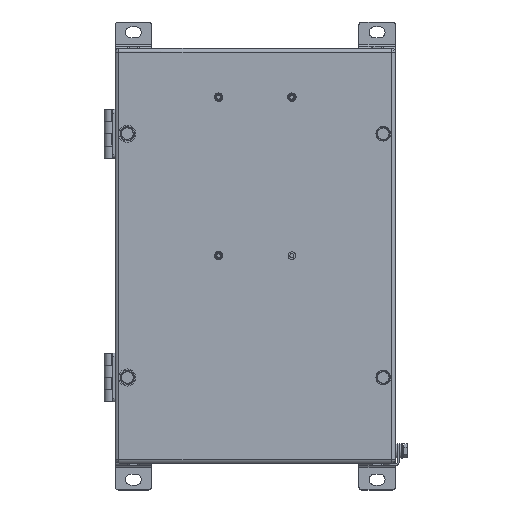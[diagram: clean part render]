
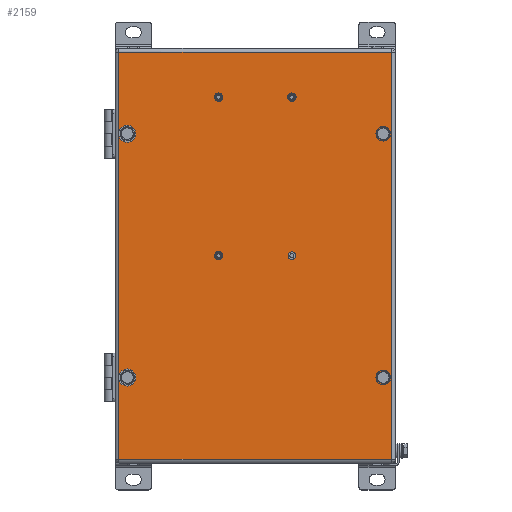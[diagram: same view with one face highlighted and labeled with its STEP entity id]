
A CAD part, top view. The second image highlights one B-rep face of the part: STEP entity #2159.
In plain terms, the highlighted planar face has unit normal (0, 0, 1).
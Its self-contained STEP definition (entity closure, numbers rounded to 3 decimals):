
#1589=CARTESIAN_POINT('',(112.,-167.,150.));
#1590=VERTEX_POINT('',#1589);
#1656=CARTESIAN_POINT('',(112.0,167.,150.));
#1657=VERTEX_POINT('',#1656);
#1723=CARTESIAN_POINT('',(-112.,-167.,150.));
#1724=VERTEX_POINT('',#1723);
#1796=CARTESIAN_POINT('',(112.,-167.,150.));
#1797=DIRECTION('',(-1.0,0.0,0.0));
#1798=VECTOR('',#1797,224.);
#1799=LINE('',#1796,#1798);
#1800=EDGE_CURVE('',#1590,#1724,#1799,.T.);
#1812=CARTESIAN_POINT('',(-112.,167.,150.));
#1813=VERTEX_POINT('',#1812);
#1885=CARTESIAN_POINT('',(-112.,-167.0,150.));
#1886=DIRECTION('',(0.0,1.0,0.0));
#1887=VECTOR('',#1886,334.0);
#1888=LINE('',#1885,#1887);
#1889=EDGE_CURVE('',#1724,#1813,#1888,.T.);
#1907=CARTESIAN_POINT('',(-112.,167.,150.));
#1908=DIRECTION('',(1.0,0.0,0.0));
#1909=VECTOR('',#1908,224.);
#1910=LINE('',#1907,#1909);
#1911=EDGE_CURVE('',#1813,#1657,#1910,.T.);
#1929=CARTESIAN_POINT('',(112.,167.0,150.));
#1930=DIRECTION('',(0.0,-1.0,0.0));
#1931=VECTOR('',#1930,334.0);
#1932=LINE('',#1929,#1931);
#1933=EDGE_CURVE('',#1657,#1590,#1932,.T.);
#2060=CARTESIAN_POINT('',(0.,0.,150.));
#2061=DIRECTION('',(0.0,0.0,1.0));
#2062=DIRECTION('',(1.0,0.0,0.0));
#2063=AXIS2_PLACEMENT_3D('',#2060,#2061,#2062);
#2064=PLANE('',#2063);
#2065=ORIENTED_EDGE('',*,*,#1800,.F.);
#2066=ORIENTED_EDGE('',*,*,#1933,.F.);
#2067=ORIENTED_EDGE('',*,*,#1911,.F.);
#2068=ORIENTED_EDGE('',*,*,#1889,.F.);
#2069=EDGE_LOOP('',(#2065,#2066,#2067,#2068));
#2070=FACE_OUTER_BOUND('',#2069,.T.);
#2071=CARTESIAN_POINT('',(-101.25,100.,150.));
#2072=VERTEX_POINT('',#2071);
#2073=CARTESIAN_POINT('',(-105.,100.,150.));
#2074=DIRECTION('',(0.0,0.0,-1.0));
#2075=DIRECTION('',(-1.0,0.0,0.0));
#2076=AXIS2_PLACEMENT_3D('',#2073,#2074,#2075);
#2077=CIRCLE('',#2076,3.75);
#2078=EDGE_CURVE('',#2072,#2072,#2077,.T.);
#2079=ORIENTED_EDGE('',*,*,#2078,.T.);
#2080=EDGE_LOOP('',(#2079));
#2081=FACE_BOUND('',#2080,.T.);
#2082=CARTESIAN_POINT('',(108.75,100.0,150.));
#2083=VERTEX_POINT('',#2082);
#2084=CARTESIAN_POINT('',(105.,100.0,150.));
#2085=DIRECTION('',(0.0,0.0,-1.0));
#2086=DIRECTION('',(-1.0,0.0,0.0));
#2087=AXIS2_PLACEMENT_3D('',#2084,#2085,#2086);
#2088=CIRCLE('',#2087,3.75);
#2089=EDGE_CURVE('',#2083,#2083,#2088,.T.);
#2090=ORIENTED_EDGE('',*,*,#2089,.T.);
#2091=EDGE_LOOP('',(#2090));
#2092=FACE_BOUND('',#2091,.T.);
#2093=CARTESIAN_POINT('',(-101.25,-100.,150.));
#2094=VERTEX_POINT('',#2093);
#2095=CARTESIAN_POINT('',(-105.,-100.,150.));
#2096=DIRECTION('',(0.0,0.0,-1.0));
#2097=DIRECTION('',(-1.0,0.0,0.0));
#2098=AXIS2_PLACEMENT_3D('',#2095,#2096,#2097);
#2099=CIRCLE('',#2098,3.75);
#2100=EDGE_CURVE('',#2094,#2094,#2099,.T.);
#2101=ORIENTED_EDGE('',*,*,#2100,.T.);
#2102=EDGE_LOOP('',(#2101));
#2103=FACE_BOUND('',#2102,.T.);
#2104=CARTESIAN_POINT('',(108.75,-100.0,150.));
#2105=VERTEX_POINT('',#2104);
#2106=CARTESIAN_POINT('',(105.,-100.0,150.));
#2107=DIRECTION('',(0.0,0.0,-1.0));
#2108=DIRECTION('',(-1.0,0.0,0.0));
#2109=AXIS2_PLACEMENT_3D('',#2106,#2107,#2108);
#2110=CIRCLE('',#2109,3.75);
#2111=EDGE_CURVE('',#2105,#2105,#2110,.T.);
#2112=ORIENTED_EDGE('',*,*,#2111,.T.);
#2113=EDGE_LOOP('',(#2112));
#2114=FACE_BOUND('',#2113,.T.);
#2115=CARTESIAN_POINT('',(33.05,130.,150.));
#2116=VERTEX_POINT('',#2115);
#2117=CARTESIAN_POINT('',(30.,130.,150.));
#2118=DIRECTION('',(0.0,0.0,-1.0));
#2119=DIRECTION('',(-1.0,0.0,0.0));
#2120=AXIS2_PLACEMENT_3D('',#2117,#2118,#2119);
#2121=CIRCLE('',#2120,3.05);
#2122=EDGE_CURVE('',#2116,#2116,#2121,.T.);
#2123=ORIENTED_EDGE('',*,*,#2122,.T.);
#2124=EDGE_LOOP('',(#2123));
#2125=FACE_BOUND('',#2124,.T.);
#2126=CARTESIAN_POINT('',(-26.95,130.,150.));
#2127=VERTEX_POINT('',#2126);
#2128=CARTESIAN_POINT('',(-30.,130.,150.));
#2129=DIRECTION('',(0.0,0.0,-1.0));
#2130=DIRECTION('',(-1.0,0.0,0.0));
#2131=AXIS2_PLACEMENT_3D('',#2128,#2129,#2130);
#2132=CIRCLE('',#2131,3.05);
#2133=EDGE_CURVE('',#2127,#2127,#2132,.T.);
#2134=ORIENTED_EDGE('',*,*,#2133,.T.);
#2135=EDGE_LOOP('',(#2134));
#2136=FACE_BOUND('',#2135,.T.);
#2137=CARTESIAN_POINT('',(-26.95,0.,150.));
#2138=VERTEX_POINT('',#2137);
#2139=CARTESIAN_POINT('',(-30.,0.,150.));
#2140=DIRECTION('',(0.0,0.0,-1.0));
#2141=DIRECTION('',(-1.0,0.0,0.0));
#2142=AXIS2_PLACEMENT_3D('',#2139,#2140,#2141);
#2143=CIRCLE('',#2142,3.05);
#2144=EDGE_CURVE('',#2138,#2138,#2143,.T.);
#2145=ORIENTED_EDGE('',*,*,#2144,.T.);
#2146=EDGE_LOOP('',(#2145));
#2147=FACE_BOUND('',#2146,.T.);
#2148=CARTESIAN_POINT('',(33.05,0.,150.));
#2149=VERTEX_POINT('',#2148);
#2150=CARTESIAN_POINT('',(30.,0.,150.));
#2151=DIRECTION('',(0.0,0.0,-1.0));
#2152=DIRECTION('',(-1.0,0.0,0.0));
#2153=AXIS2_PLACEMENT_3D('',#2150,#2151,#2152);
#2154=CIRCLE('',#2153,3.05);
#2155=EDGE_CURVE('',#2149,#2149,#2154,.T.);
#2156=ORIENTED_EDGE('',*,*,#2155,.T.);
#2157=EDGE_LOOP('',(#2156));
#2158=FACE_BOUND('',#2157,.T.);
#2159=ADVANCED_FACE('',(#2070,#2081,#2092,#2103,#2114,#2125,#2136,#2147,#2158),#2064,.T.);
